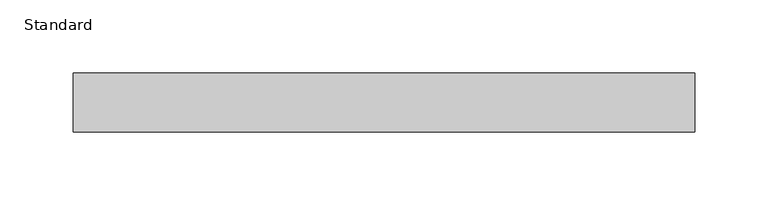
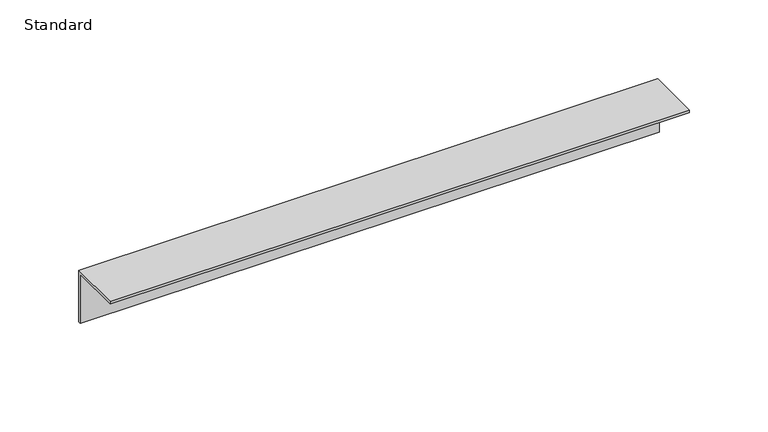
"""IFC4 building model written with IfcOpenShell, lengths in millimetres: furniture geometry, X_Vanity-Angle-Duracube-Bench Support : Standard."""

from ifc_helpers import new_model, si_unit, frame, origin, place, context, project, spatial, polyline, outline, extrude, source, transform, mapped, element, save


def standard_b27cfdda(model_context):
    return source(origin(), model_context, "Body", "SweptSolid", [
        extrude(outline(polyline([(0.0, 0.0), (-2.0, 0.0), (-2.0, 38.0), (-40.0, 38.0), (-40.0, 40.0), (0.0, 40.0), (0.0, 0.0)])), frame((-167.0496736, 0.0, 0.0), z_axis=(1.0, 0.0, 0.0), x_axis=(0.0, 1.0, 0.0)), (0.0, 0.0, 1.0), 423.5),
    ])


if __name__ == "__main__":
    model = new_model("IFC4")
    model_context = context("Model", 3, world=origin())
    ifc_project = project(units=[si_unit("LENGTHUNIT", "METRE", prefix="MILLI")], contexts=[model_context])
    site = spatial("IfcSite", under=ifc_project)
    building = spatial("IfcBuilding", under=site)
    placement = place(None, origin())
    standard_shape = standard_b27cfdda(model_context)
    element("IfcFurniture", 1, ObjectType="X_Vanity-Angle-Duracube-Bench Support : Standard", at=placement, inside=building, context=model_context, shape_type="MappedRepresentation", body=[
        mapped(standard_shape, transform((0.0, 0.0, 0.0), x_axis=(1.0, 0.0, 0.0), y_axis=(0.0, 1.0, 0.0), z_axis=(0.0, 0.0, 1.0))),
    ])
    save(model, "model.ifc")
